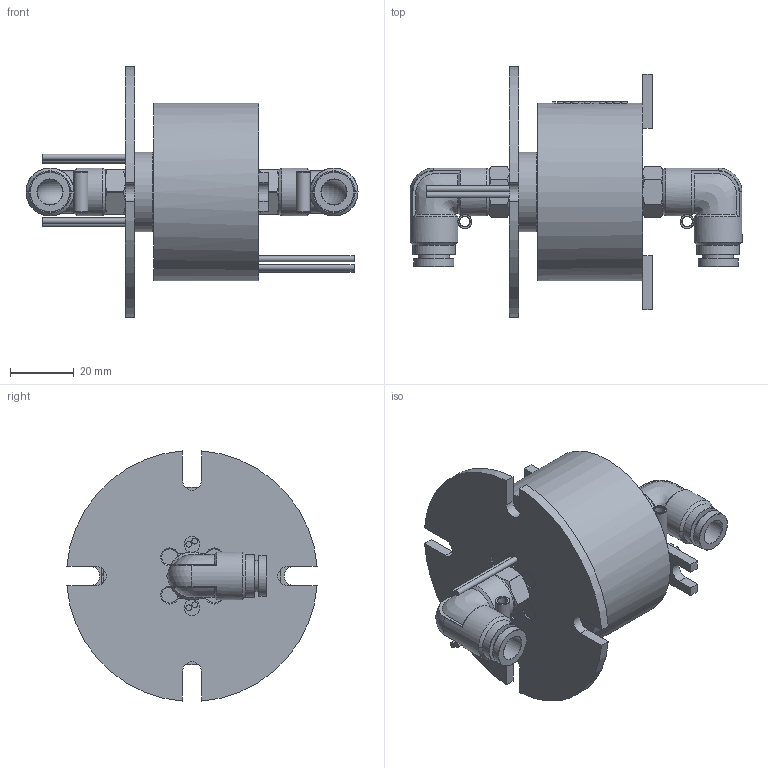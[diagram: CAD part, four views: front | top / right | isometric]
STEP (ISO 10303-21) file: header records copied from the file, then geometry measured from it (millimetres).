
FILE_DESCRIPTION(/* description */ (''),/* implementation_level */ '2;1');
FILE_NAME(/* name */ 'HQD1256-0410-D801-3D模型.stp',/* time_stamp */ '2025-09-17T17:48:50+08:00',/* author */ (''),/* organization */ (''),/* preprocessor_version */ 'ST-DEVELOPER v16.7',/* originating_system */ 'SIEMENS PLM Software NX 12.0',/* authorisation */ '');
FILE_SCHEMA (('AUTOMOTIVE_DESIGN { 1 0 10303 214 3 1 1 1 }'));
Length unit declared in the file: millimetre
Products named in the file (1): Admi06ACA856piuj
Bounding box: 104.5 x 78.77 x 78.77 mm (x, y, z)
Volume: 110485.1 mm3; surface area: 30791.5 mm2
Topology: 1 solids, 1 shells, 552 faces, 1356 edges, 869 vertices
Faces by surface type: plane 282, cylinder 92, extrusion 69, cone 55, bspline 30, torus 22, sphere 2
Full cylindrical faces by diameter (mm): 1.8 x8, 3.15 x2, 4.5 x2, 5 x14, 5.837 x2, 8 x4, 9.8 x2, 12.6 x2, 13.3 x2, 15.098 x4, 25 x1, 56 x1
Entity records: 29436 total; most frequent: CARTESIAN_POINT 17873, ORIENTED_EDGE 2490, DIRECTION 1959, EDGE_CURVE 1245, VERTEX_POINT 846, AXIS2_PLACEMENT_3D 812, EDGE_LOOP 711, B_SPLINE_CURVE_WITH_KNOTS 690
